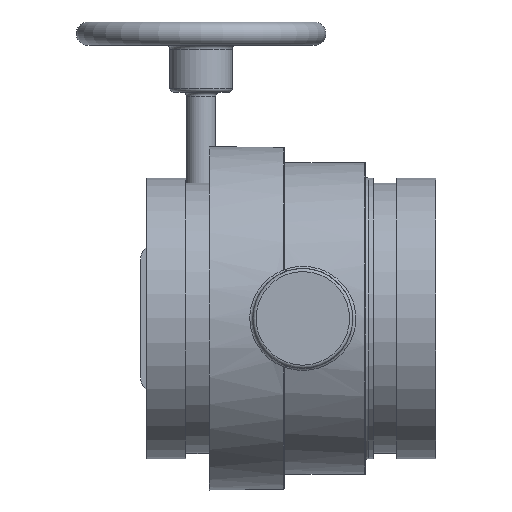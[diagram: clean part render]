
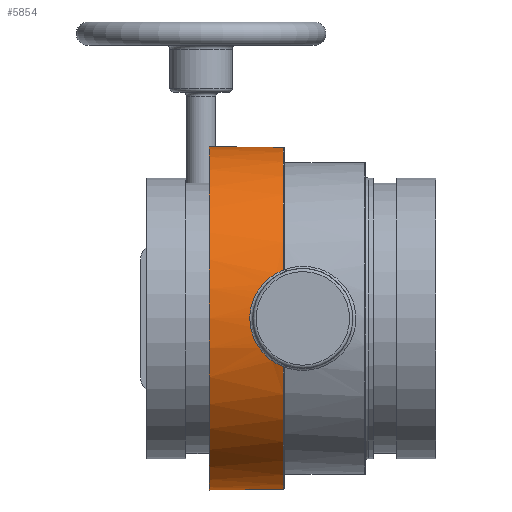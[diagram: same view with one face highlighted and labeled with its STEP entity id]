
A CAD part, front view. The second image highlights one B-rep face of the part: STEP entity #5854.
In plain terms, the highlighted cylindrical face has radius 69.85 mm (diameter 139.7 mm), a full revolution.
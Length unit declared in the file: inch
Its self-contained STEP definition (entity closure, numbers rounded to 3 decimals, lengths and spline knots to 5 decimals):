
#80=B_SPLINE_CURVE_WITH_KNOTS('',3,(#9750,#9751,#9752,#9753,#9754,#9755),
 .UNSPECIFIED.,.F.,.F.,(4,1,1,4),(-5.20796,-3.71997,-2.97597,
-2.60404),.UNSPECIFIED.);
#81=B_SPLINE_CURVE_WITH_KNOTS('',3,(#9756,#9757,#9758,#9759,#9760,#9761,
#9762),.UNSPECIFIED.,.F.,.F.,(4,1,1,1,4),(-2.60396,-2.23198,
-1.48799,-0.74399,0.),
 .UNSPECIFIED.);
#87=B_SPLINE_CURVE_WITH_KNOTS('',3,(#9891,#9892,#9893,#9894,#9895),
 .UNSPECIFIED.,.F.,.F.,(4,1,4),(0.,0.10436,0.24352),
 .UNSPECIFIED.);
#88=B_SPLINE_CURVE_WITH_KNOTS('',3,(#9899,#9900,#9901,#9902,#9903),
 .UNSPECIFIED.,.F.,.F.,(4,1,4),(0.,0.10436,0.24352),
 .UNSPECIFIED.);
#389=FACE_OUTER_BOUND('',#756,.T.);
#756=EDGE_LOOP('',(#3843,#3844,#3845,#3846,#3847,#3848,#3849,#3850,#3851,
#3852,#3853,#3854,#3855));
#1170=LINE('',#9889,#1481);
#1171=LINE('',#9905,#1482);
#1172=LINE('',#9908,#1483);
#1481=VECTOR('',#7384,0.3937);
#1482=VECTOR('',#7387,0.3937);
#1483=VECTOR('',#7390,2.75);
#1800=CIRCLE('',#6369,2.75);
#1801=CIRCLE('',#6370,2.75);
#1802=CIRCLE('',#6371,2.75);
#1803=CIRCLE('',#6372,2.75);
#1804=CIRCLE('',#6373,2.75);
#2309=VERTEX_POINT('',#9687);
#2311=VERTEX_POINT('',#9747);
#2312=VERTEX_POINT('',#9749);
#2332=VERTEX_POINT('',#9886);
#2333=VERTEX_POINT('',#9888);
#2334=VERTEX_POINT('',#9890);
#2335=VERTEX_POINT('',#9896);
#2336=VERTEX_POINT('',#9898);
#2337=VERTEX_POINT('',#9904);
#2338=VERTEX_POINT('',#9907);
#2339=VERTEX_POINT('',#9909);
#2866=EDGE_CURVE('',#2311,#2312,#80,.T.);
#2867=EDGE_CURVE('',#2312,#2309,#81,.T.);
#2899=EDGE_CURVE('',#2332,#2311,#1800,.T.);
#2900=EDGE_CURVE('',#2333,#2332,#1170,.T.);
#2901=EDGE_CURVE('',#2334,#2333,#87,.T.);
#2902=EDGE_CURVE('',#2335,#2334,#1801,.T.);
#2903=EDGE_CURVE('',#2336,#2335,#88,.T.);
#2904=EDGE_CURVE('',#2337,#2336,#1171,.T.);
#2905=EDGE_CURVE('',#2309,#2337,#1802,.T.);
#2906=EDGE_CURVE('',#2312,#2338,#1172,.T.);
#2907=EDGE_CURVE('',#2338,#2339,#1803,.T.);
#2908=EDGE_CURVE('',#2339,#2338,#1804,.T.);
#3843=ORIENTED_EDGE('',*,*,#2866,.F.);
#3844=ORIENTED_EDGE('',*,*,#2899,.F.);
#3845=ORIENTED_EDGE('',*,*,#2900,.F.);
#3846=ORIENTED_EDGE('',*,*,#2901,.F.);
#3847=ORIENTED_EDGE('',*,*,#2902,.F.);
#3848=ORIENTED_EDGE('',*,*,#2903,.F.);
#3849=ORIENTED_EDGE('',*,*,#2904,.F.);
#3850=ORIENTED_EDGE('',*,*,#2905,.F.);
#3851=ORIENTED_EDGE('',*,*,#2867,.F.);
#3852=ORIENTED_EDGE('',*,*,#2906,.T.);
#3853=ORIENTED_EDGE('',*,*,#2907,.T.);
#3854=ORIENTED_EDGE('',*,*,#2908,.T.);
#3855=ORIENTED_EDGE('',*,*,#2906,.F.);
#5322=CYLINDRICAL_SURFACE('',#6368,2.75);
#5854=ADVANCED_FACE('',(#389),#5322,.T.);
#6368=AXIS2_PLACEMENT_3D('',#9885,#7380,#7381);
#6369=AXIS2_PLACEMENT_3D('',#9887,#7382,#7383);
#6370=AXIS2_PLACEMENT_3D('',#9897,#7385,#7386);
#6371=AXIS2_PLACEMENT_3D('',#9906,#7388,#7389);
#6372=AXIS2_PLACEMENT_3D('',#9910,#7391,#7392);
#6373=AXIS2_PLACEMENT_3D('',#9911,#7393,#7394);
#7380=DIRECTION('center_axis',(0.,0.,-1.));
#7381=DIRECTION('ref_axis',(0.,1.,0.));
#7382=DIRECTION('center_axis',(0.,0.,-1.));
#7383=DIRECTION('ref_axis',(0.,-1.,0.));
#7384=DIRECTION('',(0.,0.,-1.));
#7385=DIRECTION('center_axis',(0.,0.,-1.));
#7386=DIRECTION('ref_axis',(0.,1.,0.));
#7387=DIRECTION('',(0.,0.,1.));
#7388=DIRECTION('center_axis',(0.,0.,-1.));
#7389=DIRECTION('ref_axis',(0.,-1.,0.));
#7390=DIRECTION('',(0.,0.,1.));
#7391=DIRECTION('center_axis',(0.,0.,-1.));
#7392=DIRECTION('ref_axis',(1.,0.,0.));
#7393=DIRECTION('center_axis',(0.,0.,-1.));
#7394=DIRECTION('ref_axis',(1.,0.,0.));
#9687=CARTESIAN_POINT('',(-0.77732,-2.63785,0.31));
#9747=CARTESIAN_POINT('',(0.77732,-2.63785,0.31));
#9749=CARTESIAN_POINT('',(0.,-2.75,0.85));
#9750=CARTESIAN_POINT('Ctrl Pts',(0.77732,-2.63785,0.31));
#9751=CARTESIAN_POINT('Ctrl Pts',(0.70778,-2.65835,0.49078));
#9752=CARTESIAN_POINT('Ctrl Pts',(0.51124,-2.71196,0.72088));
#9753=CARTESIAN_POINT('Ctrl Pts',(0.1918,-2.74628,0.83737));
#9754=CARTESIAN_POINT('Ctrl Pts',(0.04794,-2.74998,
0.84993));
#9755=CARTESIAN_POINT('Ctrl Pts',(0.,-2.74998,
0.84995));
#9756=CARTESIAN_POINT('Ctrl Pts',(-0.00003,-2.74998,
0.84995));
#9757=CARTESIAN_POINT('Ctrl Pts',(-0.04798,-2.74999,
0.84997));
#9758=CARTESIAN_POINT('Ctrl Pts',(-0.19181,-2.74632,
0.83752));
#9759=CARTESIAN_POINT('Ctrl Pts',(-0.41979,-2.72176,
0.75393));
#9760=CARTESIAN_POINT('Ctrl Pts',(-0.64269,-2.67616,
0.56804));
#9761=CARTESIAN_POINT('Ctrl Pts',(-0.74255,-2.6481,
0.40039));
#9762=CARTESIAN_POINT('Ctrl Pts',(-0.77732,-2.63785,
0.31));
#9885=CARTESIAN_POINT('Origin',(0.,0.,0.9));
#9886=CARTESIAN_POINT('',(0.73732,2.64931,0.31));
#9887=CARTESIAN_POINT('Origin',(0.,0.,0.31));
#9888=CARTESIAN_POINT('',(0.73732,2.64931,0.52));
#9889=CARTESIAN_POINT('',(0.73732,2.64931,0.9));
#9890=CARTESIAN_POINT('',(0.67754,2.66523,0.58));
#9891=CARTESIAN_POINT('Ctrl Pts',(0.67754,2.66523,0.58));
#9892=CARTESIAN_POINT('Ctrl Pts',(0.69076,2.66187,0.58));
#9893=CARTESIAN_POINT('Ctrl Pts',(0.72168,2.65371,0.56952));
#9894=CARTESIAN_POINT('Ctrl Pts',(0.73732,2.64931,0.53826));
#9895=CARTESIAN_POINT('Ctrl Pts',(0.73732,2.64931,0.52));
#9896=CARTESIAN_POINT('',(-0.67754,2.66523,0.58));
#9897=CARTESIAN_POINT('Origin',(0.,0.,0.58));
#9898=CARTESIAN_POINT('',(-0.73732,2.64931,0.52));
#9899=CARTESIAN_POINT('Ctrl Pts',(-0.73732,2.64931,0.52));
#9900=CARTESIAN_POINT('Ctrl Pts',(-0.73732,2.64931,0.5337));
#9901=CARTESIAN_POINT('Ctrl Pts',(-0.72584,2.65255,0.56551));
#9902=CARTESIAN_POINT('Ctrl Pts',(-0.69517,2.66075,0.58));
#9903=CARTESIAN_POINT('Ctrl Pts',(-0.67754,2.66523,0.58));
#9904=CARTESIAN_POINT('',(-0.73732,2.64931,0.31));
#9905=CARTESIAN_POINT('',(-0.73732,2.64931,0.9));
#9906=CARTESIAN_POINT('Origin',(0.,0.,0.31));
#9907=CARTESIAN_POINT('',(0.,-2.75,1.5));
#9908=CARTESIAN_POINT('',(0.,-2.75,0.9));
#9909=CARTESIAN_POINT('',(0.,2.75,1.5));
#9910=CARTESIAN_POINT('Origin',(0.,0.,1.5));
#9911=CARTESIAN_POINT('Origin',(0.,0.,1.5));
